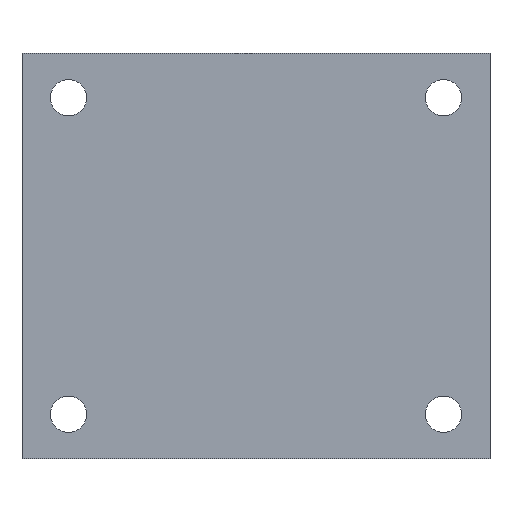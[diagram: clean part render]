
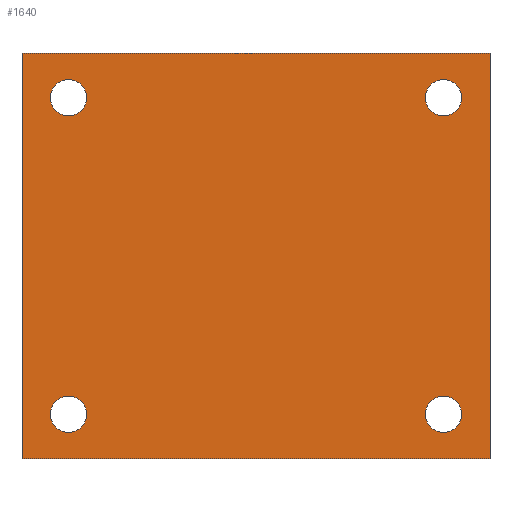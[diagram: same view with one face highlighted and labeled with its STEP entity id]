
A CAD part, front view. The second image highlights one B-rep face of the part: STEP entity #1640.
In plain terms, the highlighted planar face has unit normal (0, -1, 0).
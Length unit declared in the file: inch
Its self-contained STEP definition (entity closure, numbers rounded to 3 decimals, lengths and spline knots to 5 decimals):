
#41 = DIRECTION ( 'NONE',  ( 0., 1., 0. ) ) ;
#48 = ORIENTED_EDGE ( 'NONE', *, *, #884, .T. ) ;
#73 = VERTEX_POINT ( 'NONE', #906 ) ;
#77 = ORIENTED_EDGE ( 'NONE', *, *, #680, .F. ) ;
#81 = CARTESIAN_POINT ( 'NONE',  ( -1.24803, -1.25, -1.08268 ) ) ;
#136 = ORIENTED_EDGE ( 'NONE', *, *, #2201, .T. ) ;
#143 = DIRECTION ( 'NONE',  ( 0., 1., 0. ) ) ;
#147 = DIRECTION ( 'NONE',  ( 0., 0., 1. ) ) ;
#166 = VERTEX_POINT ( 'NONE', #1095 ) ;
#249 = VERTEX_POINT ( 'NONE', #2131 ) ;
#288 = DIRECTION ( 'NONE',  ( 0., 1., 0. ) ) ;
#293 = CARTESIAN_POINT ( 'NONE',  ( 1.24803, -1.25, 1.08268 ) ) ;
#315 = DIRECTION ( 'NONE',  ( 0., 0., 1. ) ) ;
#325 = EDGE_CURVE ( 'NONE', #1919, #73, #1438, .T. ) ;
#360 = ORIENTED_EDGE ( 'NONE', *, *, #325, .F. ) ;
#395 = ORIENTED_EDGE ( 'NONE', *, *, #2000, .T. ) ;
#405 = AXIS2_PLACEMENT_3D ( 'NONE', #476, #288, #1329 ) ;
#413 = CIRCLE ( 'NONE', #726, 0.09675 ) ;
#441 = ORIENTED_EDGE ( 'NONE', *, *, #938, .T. ) ;
#447 = EDGE_LOOP ( 'NONE', ( #395, #1170 ) ) ;
#467 = DIRECTION ( 'NONE',  ( 0., 1., 0. ) ) ;
#476 = CARTESIAN_POINT ( 'NONE',  ( -1., -1.25, 0.84375 ) ) ;
#487 = CARTESIAN_POINT ( 'NONE',  ( 1., -1.25, 0.84375 ) ) ;
#497 = VECTOR ( 'NONE', #1214, 39.37008 ) ;
#501 = DIRECTION ( 'NONE',  ( 0., 0., 1. ) ) ;
#592 = EDGE_LOOP ( 'NONE', ( #2015, #48 ) ) ;
#623 = CARTESIAN_POINT ( 'NONE',  ( -1., -1.25, 0.84375 ) ) ;
#651 = ORIENTED_EDGE ( 'NONE', *, *, #2218, .T. ) ;
#680 = EDGE_CURVE ( 'NONE', #1182, #851, #1409, .T. ) ;
#682 = EDGE_LOOP ( 'NONE', ( #136, #1063 ) ) ;
#684 = CARTESIAN_POINT ( 'NONE',  ( -0.74803, -1.25, 1.08268 ) ) ;
#695 = EDGE_CURVE ( 'NONE', #1919, #851, #951, .T. ) ;
#726 = AXIS2_PLACEMENT_3D ( 'NONE', #1325, #467, #147 ) ;
#728 = DIRECTION ( 'NONE',  ( 0., -1., 0. ) ) ;
#756 = AXIS2_PLACEMENT_3D ( 'NONE', #2230, #143, #501 ) ;
#805 = FACE_OUTER_BOUND ( 'NONE', #1442, .T. ) ;
#845 = EDGE_CURVE ( 'NONE', #1897, #2008, #1252, .T. ) ;
#851 = VERTEX_POINT ( 'NONE', #1367 ) ;
#860 = FACE_BOUND ( 'NONE', #447, .T. ) ;
#869 = DIRECTION ( 'NONE',  ( -1., 0., 0. ) ) ;
#884 = EDGE_CURVE ( 'NONE', #249, #2116, #1995, .T. ) ;
#889 = CARTESIAN_POINT ( 'NONE',  ( 0., -1.25, 0. ) ) ;
#906 = CARTESIAN_POINT ( 'NONE',  ( -1.24803, -1.25, 1.08268 ) ) ;
#931 = CARTESIAN_POINT ( 'NONE',  ( -1., -1.25, 0.747 ) ) ;
#938 = EDGE_CURVE ( 'NONE', #1851, #166, #1435, .T. ) ;
#951 = LINE ( 'NONE', #1072, #2085 ) ;
#986 = DIRECTION ( 'NONE',  ( 0., 1., 0. ) ) ;
#1032 = VECTOR ( 'NONE', #2175, 39.37008 ) ;
#1063 = ORIENTED_EDGE ( 'NONE', *, *, #845, .T. ) ;
#1072 = CARTESIAN_POINT ( 'NONE',  ( -0.74803, -1.25, -1.08268 ) ) ;
#1093 = VERTEX_POINT ( 'NONE', #931 ) ;
#1095 = CARTESIAN_POINT ( 'NONE',  ( 1., -1.25, -0.747 ) ) ;
#1120 = CARTESIAN_POINT ( 'NONE',  ( -1., -1.25, -0.9405 ) ) ;
#1122 = ORIENTED_EDGE ( 'NONE', *, *, #1536, .T. ) ;
#1132 = CARTESIAN_POINT ( 'NONE',  ( 1., -1.25, -0.84375 ) ) ;
#1139 = EDGE_CURVE ( 'NONE', #1093, #2172, #1326, .T. ) ;
#1170 = ORIENTED_EDGE ( 'NONE', *, *, #1139, .T. ) ;
#1174 = EDGE_LOOP ( 'NONE', ( #651, #441 ) ) ;
#1182 = VERTEX_POINT ( 'NONE', #293 ) ;
#1214 = DIRECTION ( 'NONE',  ( 0., 0., -1. ) ) ;
#1252 = CIRCLE ( 'NONE', #756, 0.09675 ) ;
#1262 = CARTESIAN_POINT ( 'NONE',  ( -1., -1.25, -0.84375 ) ) ;
#1318 = CARTESIAN_POINT ( 'NONE',  ( -1.24803, -1.25, -1.08268 ) ) ;
#1325 = CARTESIAN_POINT ( 'NONE',  ( 1., -1.25, 0.84375 ) ) ;
#1326 = CIRCLE ( 'NONE', #1432, 0.09675 ) ;
#1329 = DIRECTION ( 'NONE',  ( 0., 0., 1. ) ) ;
#1354 = DIRECTION ( 'NONE',  ( 0., 1., 0. ) ) ;
#1367 = CARTESIAN_POINT ( 'NONE',  ( 1.24803, -1.25, -1.08268 ) ) ;
#1398 = DIRECTION ( 'NONE',  ( 0., 0., -1. ) ) ;
#1402 = CARTESIAN_POINT ( 'NONE',  ( 1.24803, -1.25, 1.08268 ) ) ;
#1407 = CARTESIAN_POINT ( 'NONE',  ( 1., -1.25, 0.9405 ) ) ;
#1409 = LINE ( 'NONE', #1402, #497 ) ;
#1432 = AXIS2_PLACEMENT_3D ( 'NONE', #623, #1841, #2200 ) ;
#1435 = CIRCLE ( 'NONE', #1616, 0.09675 ) ;
#1436 = FACE_BOUND ( 'NONE', #1174, .T. ) ;
#1438 = LINE ( 'NONE', #1318, #1032 ) ;
#1442 = EDGE_LOOP ( 'NONE', ( #1122, #360, #2181, #77 ) ) ;
#1449 = AXIS2_PLACEMENT_3D ( 'NONE', #889, #728, #1398 ) ;
#1455 = CARTESIAN_POINT ( 'NONE',  ( -1., -1.25, 0.9405 ) ) ;
#1464 = DIRECTION ( 'NONE',  ( 0., 0., 1. ) ) ;
#1487 = LINE ( 'NONE', #684, #1879 ) ;
#1495 = CIRCLE ( 'NONE', #2238, 0.09675 ) ;
#1513 = CARTESIAN_POINT ( 'NONE',  ( -1., -1.25, -0.747 ) ) ;
#1536 = EDGE_CURVE ( 'NONE', #1182, #73, #1487, .T. ) ;
#1550 = CIRCLE ( 'NONE', #2110, 0.09675 ) ;
#1616 = AXIS2_PLACEMENT_3D ( 'NONE', #1905, #1918, #2099 ) ;
#1617 = DIRECTION ( 'NONE',  ( 0., 0., 1. ) ) ;
#1640 = ADVANCED_FACE ( 'NONE', ( #2225, #1436, #1756, #860, #805 ), #1903, .T. ) ;
#1728 = DIRECTION ( 'NONE',  ( 1., 0., 0. ) ) ;
#1756 = FACE_BOUND ( 'NONE', #592, .T. ) ;
#1841 = DIRECTION ( 'NONE',  ( 0., 1., 0. ) ) ;
#1851 = VERTEX_POINT ( 'NONE', #2167 ) ;
#1879 = VECTOR ( 'NONE', #869, 39.37008 ) ;
#1897 = VERTEX_POINT ( 'NONE', #1120 ) ;
#1903 = PLANE ( 'NONE',  #1449 ) ;
#1905 = CARTESIAN_POINT ( 'NONE',  ( 1., -1.25, -0.84375 ) ) ;
#1918 = DIRECTION ( 'NONE',  ( 0., 1., 0. ) ) ;
#1919 = VERTEX_POINT ( 'NONE', #81 ) ;
#1931 = EDGE_CURVE ( 'NONE', #2116, #249, #413, .T. ) ;
#1995 = CIRCLE ( 'NONE', #2126, 0.09675 ) ;
#2000 = EDGE_CURVE ( 'NONE', #2172, #1093, #2066, .T. ) ;
#2008 = VERTEX_POINT ( 'NONE', #1513 ) ;
#2015 = ORIENTED_EDGE ( 'NONE', *, *, #1931, .T. ) ;
#2066 = CIRCLE ( 'NONE', #405, 0.09675 ) ;
#2085 = VECTOR ( 'NONE', #1728, 39.37008 ) ;
#2099 = DIRECTION ( 'NONE',  ( 0., 0., 1. ) ) ;
#2110 = AXIS2_PLACEMENT_3D ( 'NONE', #1262, #41, #1617 ) ;
#2116 = VERTEX_POINT ( 'NONE', #1407 ) ;
#2126 = AXIS2_PLACEMENT_3D ( 'NONE', #487, #1354, #315 ) ;
#2131 = CARTESIAN_POINT ( 'NONE',  ( 1., -1.25, 0.747 ) ) ;
#2167 = CARTESIAN_POINT ( 'NONE',  ( 1., -1.25, -0.9405 ) ) ;
#2172 = VERTEX_POINT ( 'NONE', #1455 ) ;
#2175 = DIRECTION ( 'NONE',  ( 0., 0., 1. ) ) ;
#2181 = ORIENTED_EDGE ( 'NONE', *, *, #695, .T. ) ;
#2200 = DIRECTION ( 'NONE',  ( 0., 0., 1. ) ) ;
#2201 = EDGE_CURVE ( 'NONE', #2008, #1897, #1550, .T. ) ;
#2218 = EDGE_CURVE ( 'NONE', #166, #1851, #1495, .T. ) ;
#2225 = FACE_BOUND ( 'NONE', #682, .T. ) ;
#2230 = CARTESIAN_POINT ( 'NONE',  ( -1., -1.25, -0.84375 ) ) ;
#2238 = AXIS2_PLACEMENT_3D ( 'NONE', #1132, #986, #1464 ) ;
